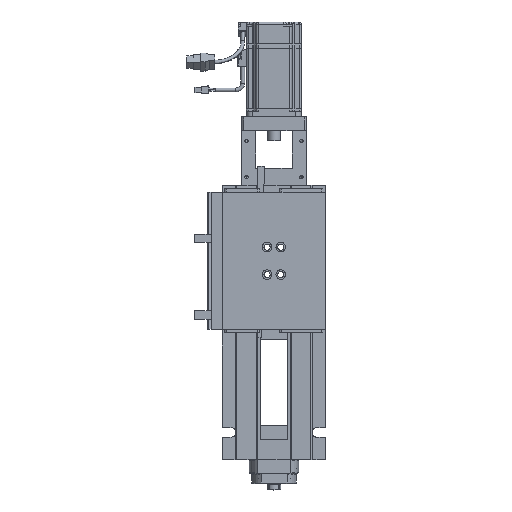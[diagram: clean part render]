
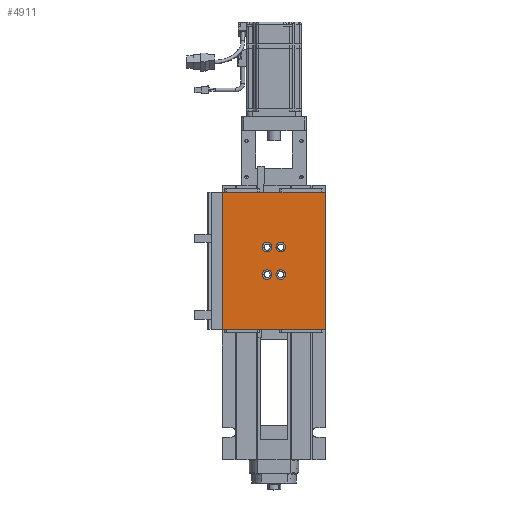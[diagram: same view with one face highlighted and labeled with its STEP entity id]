
A CAD part, top view. The second image highlights one B-rep face of the part: STEP entity #4911.
In plain terms, the highlighted planar face has unit normal (0, 0, 1) as drawn and (0, 1, 0) by its records, which use the part's own axes.
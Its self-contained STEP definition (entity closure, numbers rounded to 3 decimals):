
#4911 = ADVANCED_FACE( '', ( #11345, #11346, #11347, #11348, #11349 ), #11350, .F. );
#11345 = FACE_BOUND( '', #20438, .T. );
#11346 = FACE_BOUND( '', #20439, .T. );
#11347 = FACE_BOUND( '', #20440, .T. );
#11348 = FACE_BOUND( '', #20441, .T. );
#11349 = FACE_OUTER_BOUND( '', #20442, .T. );
#11350 = PLANE( '', #20443 );
#20438 = EDGE_LOOP( '', ( #31484 ) );
#20439 = EDGE_LOOP( '', ( #31485 ) );
#20440 = EDGE_LOOP( '', ( #31486 ) );
#20441 = EDGE_LOOP( '', ( #31487 ) );
#20442 = EDGE_LOOP( '', ( #31488, #31489, #31490, #31491 ) );
#20443 = AXIS2_PLACEMENT_3D( '', #31492, #31493, #31494 );
#31484 = ORIENTED_EDGE( '', *, *, #39868, .T. );
#31485 = ORIENTED_EDGE( '', *, *, #39869, .T. );
#31486 = ORIENTED_EDGE( '', *, *, #38513, .T. );
#31487 = ORIENTED_EDGE( '', *, *, #39870, .T. );
#31488 = ORIENTED_EDGE( '', *, *, #39871, .F. );
#31489 = ORIENTED_EDGE( '', *, *, #39872, .F. );
#31490 = ORIENTED_EDGE( '', *, *, #39873, .F. );
#31491 = ORIENTED_EDGE( '', *, *, #39874, .F. );
#31492 = CARTESIAN_POINT( '', ( 0., 19.5, 0. ) );
#31493 = DIRECTION( '', ( 0., -1., 0. ) );
#31494 = DIRECTION( '', ( 0., 0., -1. ) );
#38513 = EDGE_CURVE( '', #41288, #41288, #41289, .T. );
#39868 = EDGE_CURVE( '', #43376, #43376, #43377, .T. );
#39869 = EDGE_CURVE( '', #43378, #43378, #43379, .T. );
#39870 = EDGE_CURVE( '', #43380, #43380, #43381, .T. );
#39871 = EDGE_CURVE( '', #43382, #43383, #43384, .T. );
#39872 = EDGE_CURVE( '', #43385, #43382, #43386, .T. );
#39873 = EDGE_CURVE( '', #43387, #43385, #43388, .T. );
#39874 = EDGE_CURVE( '', #43383, #43387, #43389, .T. );
#41288 = VERTEX_POINT( '', #45088 );
#41289 = CIRCLE( '', #45089, 7. );
#43376 = VERTEX_POINT( '', #48441 );
#43377 = CIRCLE( '', #48442, 7. );
#43378 = VERTEX_POINT( '', #48443 );
#43379 = CIRCLE( '', #48444, 7. );
#43380 = VERTEX_POINT( '', #48445 );
#43381 = CIRCLE( '', #48446, 7. );
#43382 = VERTEX_POINT( '', #48447 );
#43383 = VERTEX_POINT( '', #48448 );
#43384 = LINE( '', #48449, #48450 );
#43385 = VERTEX_POINT( '', #48451 );
#43386 = LINE( '', #48452, #48453 );
#43387 = VERTEX_POINT( '', #48454 );
#43388 = LINE( '', #48455, #48456 );
#43389 = LINE( '', #48457, #48458 );
#45088 = CARTESIAN_POINT( '', ( -20., 19.5, -3. ) );
#45089 = AXIS2_PLACEMENT_3D( '', #50694, #50695, #50696 );
#48441 = CARTESIAN_POINT( '', ( 20., 19.5, 17. ) );
#48442 = AXIS2_PLACEMENT_3D( '', #52179, #52180, #52181 );
#48443 = CARTESIAN_POINT( '', ( -20., 19.5, 17. ) );
#48444 = AXIS2_PLACEMENT_3D( '', #52182, #52183, #52184 );
#48445 = CARTESIAN_POINT( '', ( 20., 19.5, -3. ) );
#48446 = AXIS2_PLACEMENT_3D( '', #52185, #52186, #52187 );
#48447 = CARTESIAN_POINT( '', ( -100., 19.5, 75. ) );
#48448 = CARTESIAN_POINT( '', ( -100., 19.5, -75. ) );
#48449 = CARTESIAN_POINT( '', ( -100., 19.5, 75. ) );
#48450 = VECTOR( '', #52188, 1000. );
#48451 = CARTESIAN_POINT( '', ( 100., 19.5, 75. ) );
#48452 = CARTESIAN_POINT( '', ( 100., 19.5, 75. ) );
#48453 = VECTOR( '', #52189, 1000. );
#48454 = CARTESIAN_POINT( '', ( 100., 19.5, -75. ) );
#48455 = CARTESIAN_POINT( '', ( 100., 19.5, -75. ) );
#48456 = VECTOR( '', #52190, 1000. );
#48457 = CARTESIAN_POINT( '', ( -100., 19.5, -75. ) );
#48458 = VECTOR( '', #52191, 1000. );
#50694 = CARTESIAN_POINT( '', ( -20., 19.5, -10. ) );
#50695 = DIRECTION( '', ( 0., -1., 0. ) );
#50696 = DIRECTION( '', ( 0., 0., 1. ) );
#52179 = CARTESIAN_POINT( '', ( 20., 19.5, 10. ) );
#52180 = DIRECTION( '', ( 0., -1., 0. ) );
#52181 = DIRECTION( '', ( 0., 0., 1. ) );
#52182 = CARTESIAN_POINT( '', ( -20., 19.5, 10. ) );
#52183 = DIRECTION( '', ( 0., -1., 0. ) );
#52184 = DIRECTION( '', ( 0., 0., 1. ) );
#52185 = CARTESIAN_POINT( '', ( 20., 19.5, -10. ) );
#52186 = DIRECTION( '', ( 0., -1., 0. ) );
#52187 = DIRECTION( '', ( 0., 0., 1. ) );
#52188 = DIRECTION( '', ( 0., 0., -1. ) );
#52189 = DIRECTION( '', ( -1., 0., 0. ) );
#52190 = DIRECTION( '', ( 0., 0., 1. ) );
#52191 = DIRECTION( '', ( 1., 0., 0. ) );
